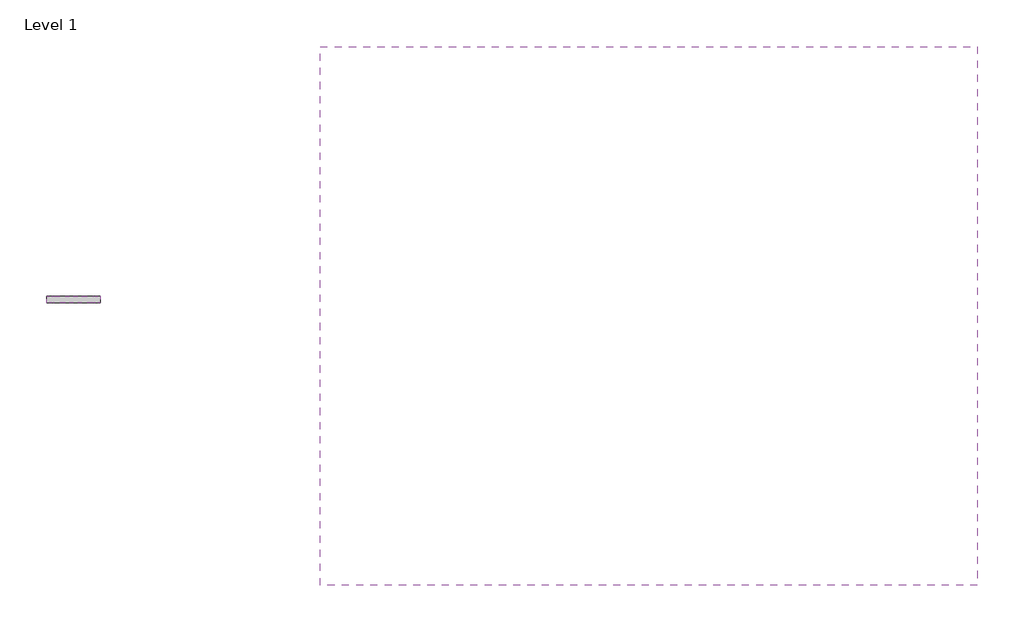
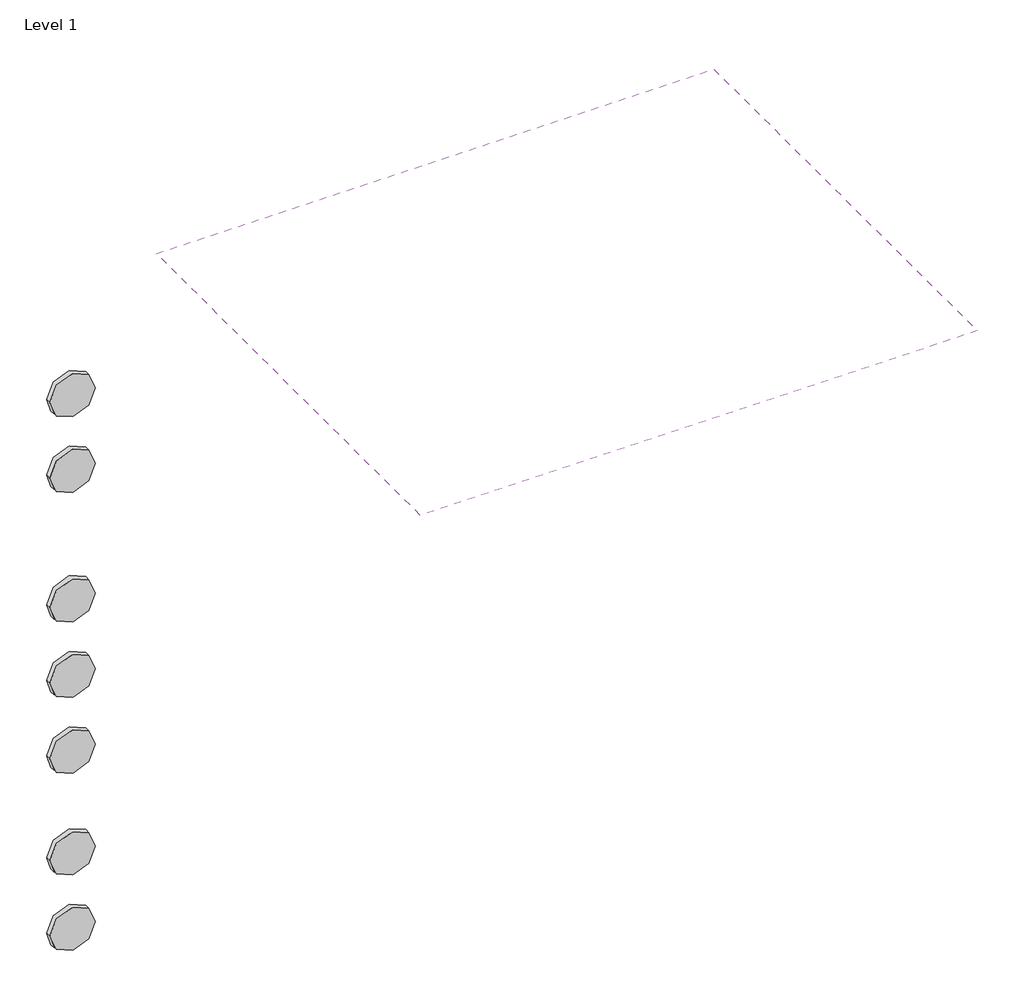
# One storey, incomplete: 7 proxies, 1 covering.
"""IFC4 building model written with IfcOpenShell, lengths in millimetres."""

import ifcopenshell
import ifcopenshell.guid

model = None  # the IFC model being written
_history = None  # IfcOwnerHistory: only IFC2X3 demands one
_inside = {}  # id of a spatial element -> (the spatial element, [elements in it])
_under = {}  # id of a project, library or spatial element -> (it, [spatial elements below it])
_declared = {}  # id of a project -> (the project, [libraries it declares])
_typed = {}  # id of a type object -> (the type object, [elements of that type])
_made_of = {}  # id of a material, layer set ... -> (it, [elements and type objects made of it])


def new_model(schema):
    """Start an empty IFC model of exactly this schema.

    Asked for "IFC4X3", IfcOpenShell would pick the latest addendum, in which some entities
    have other attributes; the version numbers below select the first issue.
    IFC2X3 requires an IfcOwnerHistory on every rooted entity: one is made here for all.
    """
    global model, _history
    if schema == "IFC4X3":
        model = ifcopenshell.file(schema_version=(4, 3, 0, 0))
    else:
        model = ifcopenshell.file(schema=schema)
    _inside.clear()
    _under.clear()
    _declared.clear()
    _typed.clear()
    _made_of.clear()
    _history = None
    if model.schema == "IFC2X3":
        org = make("IfcOrganization", Name="unknown")
        user = make(
            "IfcPersonAndOrganization",
            ThePerson=make("IfcPerson", FamilyName="unknown"),
            TheOrganization=org,
        )
        app = make(
            "IfcApplication",
            ApplicationDeveloper=org,
            Version="unknown",
            ApplicationFullName="unknown",
            ApplicationIdentifier="unknown",
        )
        _history = make(
            "IfcOwnerHistory",
            OwningUser=user,
            OwningApplication=app,
            ChangeAction="ADDED",
            CreationDate=0,
        )
    return model


def make(cls, **values):
    """One entity of the class cls with the attributes given. An attribute that is None is left unset."""
    return model.create_entity(
        cls, **{name: value for name, value in values.items() if value is not None}
    )


def rooted(cls, **values):
    """An entity with a GlobalId (a new one), such as an element, a storey or a relation."""
    return make(cls, GlobalId=ifcopenshell.guid.new(), OwnerHistory=_history, **values)


def si_unit(unit_type, name, prefix=None):
    """IfcSIUnit, for example si_unit("LENGTHUNIT", "METRE", prefix="MILLI")."""
    return make("IfcSIUnit", UnitType=unit_type, Prefix=prefix, Name=name)


def assignment(units):
    """IfcUnitAssignment: the units of a project."""
    return None if units is None else make("IfcUnitAssignment", Units=units)


def point(xyz):
    """IfcCartesianPoint."""
    return None if xyz is None else make("IfcCartesianPoint", Coordinates=xyz)


def direction(xyz):
    """IfcDirection."""
    return None if xyz is None else make("IfcDirection", DirectionRatios=xyz)


def frame(location, z_axis=None, x_axis=None):
    """IfcAxis2Placement3D, a coordinate frame: its origin and axes. An axis left out is left unset."""
    return make(
        "IfcAxis2Placement3D",
        Location=point(location),
        Axis=direction(z_axis),
        RefDirection=direction(x_axis),
    )


def frame_2d(location, x_axis=None):
    """IfcAxis2Placement2D, a coordinate frame in the plane: its origin and x axis."""
    return make(
        "IfcAxis2Placement2D", Location=point(location), RefDirection=direction(x_axis)
    )


def origin():
    """The frame at (0, 0, 0) with its axes left unset."""
    return frame((0.0, 0.0, 0.0))


def place(relative_to, where):
    """IfcLocalPlacement: puts the frame where relative to a parent placement (None: the world)."""
    return make(
        "IfcLocalPlacement", PlacementRelTo=relative_to, RelativePlacement=where
    )


def context(
    kind, dimensions, precision=None, world=None, true_north=None, identifier=None
):
    """IfcGeometricRepresentationContext, for example the 3D "Model" context."""
    return make(
        "IfcGeometricRepresentationContext",
        ContextIdentifier=identifier,
        ContextType=kind,
        CoordinateSpaceDimension=dimensions,
        Precision=precision,
        WorldCoordinateSystem=world,
        TrueNorth=true_north,
    )


def project(units=None, contexts=None):
    """IfcProject with its units and contexts."""
    return rooted(
        "IfcProject",
        Name="project",
        RepresentationContexts=contexts,
        UnitsInContext=assignment(units),
    )


def spatial(cls, under=None, at=None, **own):
    """A site, building, storey or space (cls), placed at a placement, below another one or the project."""
    s = rooted(cls, ObjectPlacement=at, **own)
    if under is not None:
        _under.setdefault(under.id(), (under, []))[1].append(s)
    return s


def polyline(points):
    """IfcPolyline through the points."""
    return make("IfcPolyline", Points=[point(p) for p in points])


def circle_curve(where, radius):
    """IfcCircle in the frame where."""
    return make("IfcCircle", Position=where, Radius=radius)


def trimmed(basis, trim1, trim2, sense, master):
    """IfcTrimmedCurve: the piece of a basis curve between two trims."""
    return make(
        "IfcTrimmedCurve",
        BasisCurve=basis,
        Trim1=trim1,
        Trim2=trim2,
        SenseAgreement=sense,
        MasterRepresentation=master,
    )


def segment(curve, same_sense, transition):
    """IfcCompositeCurveSegment."""
    return make(
        "IfcCompositeCurveSegment",
        Transition=transition,
        SameSense=same_sense,
        ParentCurve=curve,
    )


def composite_curve(segments, self_intersect=None):
    """IfcCompositeCurve: segments joined end to end."""
    return make("IfcCompositeCurve", Segments=segments, SelfIntersect=self_intersect)


def outline(outer, holes=None, kind="AREA"):
    """IfcArbitraryClosedProfileDef: a profile drawn as a closed curve; with holes, ...WithVoids."""
    if holes is None:
        return make("IfcArbitraryClosedProfileDef", ProfileType=kind, OuterCurve=outer)
    return make(
        "IfcArbitraryProfileDefWithVoids",
        ProfileType=kind,
        OuterCurve=outer,
        InnerCurves=holes,
    )


def extrude(swept, where, along, depth):
    """IfcExtrudedAreaSolid: the profile swept, set in the frame where, extruded along a direction by depth."""
    return make(
        "IfcExtrudedAreaSolid",
        SweptArea=swept,
        Position=where,
        ExtrudedDirection=direction(along),
        Depth=depth,
    )


def shape(context_of_items, identifier, shape_type, items):
    """IfcShapeRepresentation: the items that make up one representation, for example the "Body"."""
    return make(
        "IfcShapeRepresentation",
        ContextOfItems=context_of_items,
        RepresentationIdentifier=identifier,
        RepresentationType=shape_type,
        Items=items,
    )


def source(mapping_origin, context_of_items, identifier, shape_type, items):
    """IfcRepresentationMap: a shape defined once, which mapped items show again and again."""
    return make(
        "IfcRepresentationMap",
        MappingOrigin=mapping_origin,
        MappedRepresentation=shape(context_of_items, identifier, shape_type, items),
    )


def transform(
    local_origin,
    x_axis=None,
    y_axis=None,
    z_axis=None,
    scale=None,
    scale2=None,
    scale3=None,
    uniform=True,
):
    """IfcCartesianTransformationOperator3D, or its non-uniform kind. x_axis, y_axis, z_axis: its Axis1, 2, 3."""
    if uniform:
        return make(
            "IfcCartesianTransformationOperator3D",
            Axis1=direction(x_axis),
            Axis2=direction(y_axis),
            LocalOrigin=point(local_origin),
            Scale=scale,
            Axis3=direction(z_axis),
        )
    return make(
        "IfcCartesianTransformationOperator3DnonUniform",
        Axis1=direction(x_axis),
        Axis2=direction(y_axis),
        LocalOrigin=point(local_origin),
        Scale=scale,
        Axis3=direction(z_axis),
        Scale2=scale2,
        Scale3=scale3,
    )


def mapped(mapping_source, mapping_target):
    """IfcMappedItem: shows the shape of a source again, moved by a transform."""
    return make(
        "IfcMappedItem", MappingSource=mapping_source, MappingTarget=mapping_target
    )


def made_of(thing, what):
    """Note that an element or type object is made of a material, layer set ...; save() writes the relation."""
    if what is not None:
        _made_of.setdefault(what.id(), (what, []))[1].append(thing)
    return thing


def element(
    cls,
    number,
    at=None,
    inside=None,
    cuts=None,
    type_object=None,
    material=None,
    context=None,
    identifier="Body",
    shape_type=None,
    held_by="IfcProductDefinitionShape",
    body=None,
    shapes=None,
    **own,
):
    """One element of the class cls, such as IfcWall. Its Tag is "e" and its number.

    at: its placement. inside: the storey or other place that contains it. cuts: it is an
    opening in that element (IfcRelVoidsElement). A single representation is given by context,
    identifier, shape_type and body (its items); several are given by shapes. held_by: the class
    of the entity that holds the representations. save() writes the other relations.
    """
    e = rooted(cls, Tag="e%d" % number, ObjectPlacement=at, **own)
    if body is not None:
        shapes = [shape(context, identifier, shape_type, body)]
    if shapes is not None:
        e.Representation = make(held_by, Representations=shapes)
    if inside is not None:
        _inside.setdefault(inside.id(), (inside, []))[1].append(e)
    if cuts is not None:
        rooted(
            "IfcRelVoidsElement", RelatingBuildingElement=cuts, RelatedOpeningElement=e
        )
    if type_object is not None:
        _typed.setdefault(type_object.id(), (type_object, []))[1].append(e)
    return made_of(e, material)


def aggregate(whole, parts):
    """IfcRelAggregates: a whole, such as a stair, and the parts it consists of."""
    return rooted("IfcRelAggregates", RelatingObject=whole, RelatedObjects=parts)


def save(model, path):
    """Write the relations noted so far, then the file.

    IfcRelAggregates (storeys below a building ...), IfcRelContainedInSpatialStructure (elements
    in a storey), IfcRelDefinesByType, IfcRelAssociatesMaterial and IfcRelDeclares: one each for
    every whole, place, type object, material and project.
    """
    for whole, parts in _under.values():
        aggregate(whole, parts)
    for where, things in _inside.values():
        rooted(
            "IfcRelContainedInSpatialStructure",
            RelatedElements=things,
            RelatingStructure=where,
        )
    for kind, things in _typed.values():
        rooted("IfcRelDefinesByType", RelatedObjects=things, RelatingType=kind)
    for what, things in _made_of.values():
        rooted("IfcRelAssociatesMaterial", RelatedObjects=things, RelatingMaterial=what)
    for by, libraries in _declared.values():
        rooted("IfcRelDeclares", RelatingContext=by, RelatedDefinitions=libraries)
    model.write(path)


def materialmodel_materialmodel_73a78689(model_context):
    return source(origin(), model_context, "Body", "SweptSolid", [
        extrude(outline(composite_curve([segment(trimmed(circle_curve(frame_2d((75.0, 0.0)), 50.0), [point((75.0, -50.0))], [point((75.0, 50.0))], False, "CARTESIAN"), True, "CONTINUOUS"), segment(trimmed(circle_curve(frame_2d((75.0, 0.0)), 50.0), [point((75.0, 50.0))], [point((75.0, -50.0))], False, "CARTESIAN"), True, "CONTINUOUS")], self_intersect=False)), frame((0.0, -11.8565782, 0.0), z_axis=(0.0, 1.0, 0.0), x_axis=(0.0, 0.0, 1.0)), (0.0, 0.0, 1.0), 11.8565782),
    ])


model = new_model("IFC4")

# Units and contexts
model_context = context("Model", 3, world=origin())
ifc_project = project(units=[si_unit("LENGTHUNIT", "METRE", prefix="MILLI")], contexts=[model_context])

# Site, building, storey
site = spatial("IfcSite", under=ifc_project)
building = spatial("IfcBuilding", under=site)
storey = spatial("IfcBuildingStorey", under=building, Name="Level 1", Elevation=0.0)

# Proxies
placement = place(None, origin())
materialmodel_materialmodel_shape = materialmodel_materialmodel_73a78689(model_context)
element("IfcBuildingElementProxy", 1, Name="MaterialModel : MaterialModel", ObjectType="MaterialModel : MaterialModel", at=placement, inside=storey, context=model_context, shape_type="MappedRepresentation", body=[
    mapped(materialmodel_materialmodel_shape, transform((-14939.2264414, 6097.5863071, 1570.2296761), x_axis=(1.0, 0.0, 0.0), y_axis=(0.0, 1.0, 0.0), z_axis=(0.0, 0.0, 1.0))),
])
element("IfcBuildingElementProxy", 2, Name="MaterialModel : MaterialModel", ObjectType="MaterialModel : MaterialModel", at=placement, inside=storey, context=model_context, shape_type="MappedRepresentation", body=[
    mapped(materialmodel_materialmodel_shape, transform((-14939.2264414, 6097.5863071, 2045.4161759), x_axis=(1.0, 0.0, 0.0), y_axis=(0.0, 1.0, 0.0), z_axis=(0.0, 0.0, 1.0))),
])
element("IfcBuildingElementProxy", 3, Name="MaterialModel : MaterialModel", ObjectType="MaterialModel : MaterialModel", at=placement, inside=storey, context=model_context, shape_type="MappedRepresentation", body=[
    mapped(materialmodel_materialmodel_shape, transform((-14939.2264414, 6097.5863071, 1870.4161759), x_axis=(1.0, 0.0, 0.0), y_axis=(0.0, 1.0, 0.0), z_axis=(0.0, 0.0, 1.0))),
])
element("IfcBuildingElementProxy", 4, Name="MaterialModel : MaterialModel", ObjectType="MaterialModel : MaterialModel", at=placement, inside=storey, context=model_context, shape_type="MappedRepresentation", body=[
    mapped(materialmodel_materialmodel_shape, transform((-14939.2264414, 6097.5863071, 984.5812505), x_axis=(1.0, 0.0, 0.0), y_axis=(0.0, 1.0, 0.0), z_axis=(0.0, 0.0, 1.0))),
])
element("IfcBuildingElementProxy", 5, Name="MaterialModel : MaterialModel", ObjectType="MaterialModel : MaterialModel", at=placement, inside=storey, context=model_context, shape_type="MappedRepresentation", body=[
    mapped(materialmodel_materialmodel_shape, transform((-14939.2264414, 6097.5863071, 809.5812505), x_axis=(1.0, 0.0, 0.0), y_axis=(0.0, 1.0, 0.0), z_axis=(0.0, 0.0, 1.0))),
])
element("IfcBuildingElementProxy", 6, Name="MaterialModel : MaterialModel", ObjectType="MaterialModel : MaterialModel", at=placement, inside=storey, context=model_context, shape_type="MappedRepresentation", body=[
    mapped(materialmodel_materialmodel_shape, transform((-14939.2264414, 6097.5863071, 1395.2296761), x_axis=(1.0, 0.0, 0.0), y_axis=(0.0, 1.0, 0.0), z_axis=(0.0, 0.0, 1.0))),
])
element("IfcBuildingElementProxy", 7, Name="MaterialModel : MaterialModel", ObjectType="MaterialModel : MaterialModel", at=placement, inside=storey, context=model_context, shape_type="MappedRepresentation", body=[
    mapped(materialmodel_materialmodel_shape, transform((-14939.2264414, 6097.5863071, 1220.2296761), x_axis=(1.0, 0.0, 0.0), y_axis=(0.0, 1.0, 0.0), z_axis=(0.0, 0.0, 1.0))),
])

# Covering
element("IfcCovering", 8, ObjectType="600 x 1200mm Grid", at=placement, inside=storey, context=model_context, shape_type="SweptSolid", body=[
    extrude(outline(polyline([(-13260.883584, 6561.1087432), (-13260.883584, 5561.1087432), (-14480.883584, 5561.1087432), (-14480.883584, 6561.1087432), (-13260.883584, 6561.1087432)])), frame((0.0, 0.0, 2000.0), z_axis=(0.0, 0.0, 1.0), x_axis=(1.0, 0.0, 0.0)), (0.0, 0.0, 1.0), 52.0),
])

save(model, "model.ifc")
